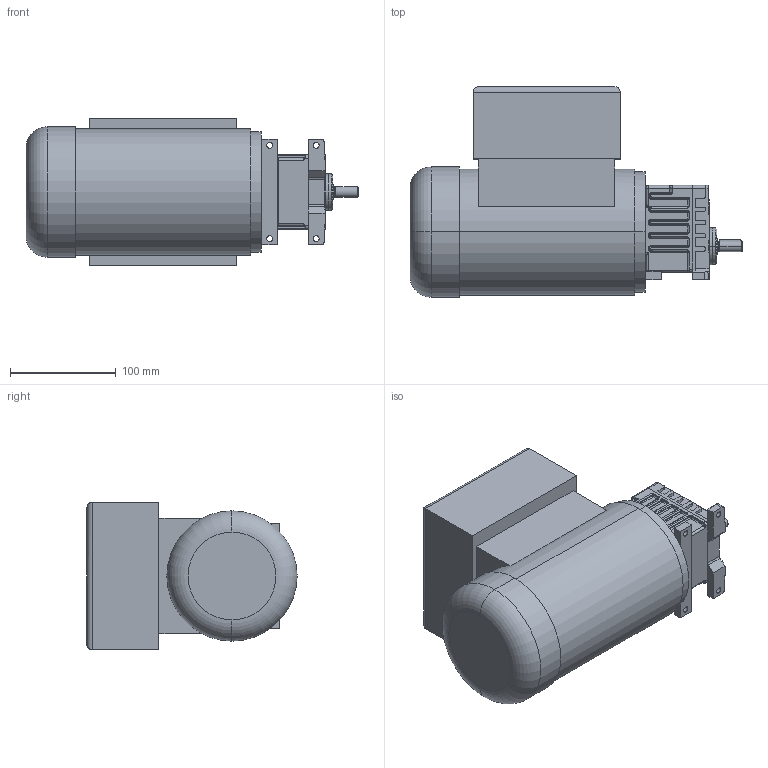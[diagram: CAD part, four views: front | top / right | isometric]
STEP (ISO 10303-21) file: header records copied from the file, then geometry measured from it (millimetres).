
FILE_DESCRIPTION(('OneSpaceDesigner STEP Export'),'2;1');
FILE_NAME('G23_G27_BF_B3_B14_Motor_Bgr_63_EEXDe_3D.stp','2007-08-27T15:41:00',(''),(''),'OneSpace Designer STEP processor for AP214 (Solid Model)','OneSpace Modeling 15.00B 25-Jun-2007 (C) CoCreate Software GmbH','');
FILE_SCHEMA(('AUTOMOTIVE_DESIGN { 1 0 10303 214 1 1 1 1 }'));
Length unit declared in the file: millimetre
Products named in the file (1): 014_G23_G27_BF_B3_B14_Motor_Bgr_63_EEXDe.1_1
Bounding box: 313.5 x 198.5 x 139 mm (x, y, z)
Volume: 4398695.8 mm3; surface area: 194107.9 mm2
Topology: 1 solids, 1 shells, 533 faces, 1323 edges, 792 vertices
Faces by surface type: bspline 224, plane 136, cylinder 125, cone 26, torus 13, sphere 5, extrusion 4
Entity records: 37529 total; most frequent: CARTESIAN_POINT 23372, ORIENTED_EDGE 2610, EDGE_CURVE 1305, DIRECTION 1243, VERTEX_POINT 792, EDGE_LOOP 559, COLOUR_RGB 534, FILL_AREA_STYLE_COLOUR 534
